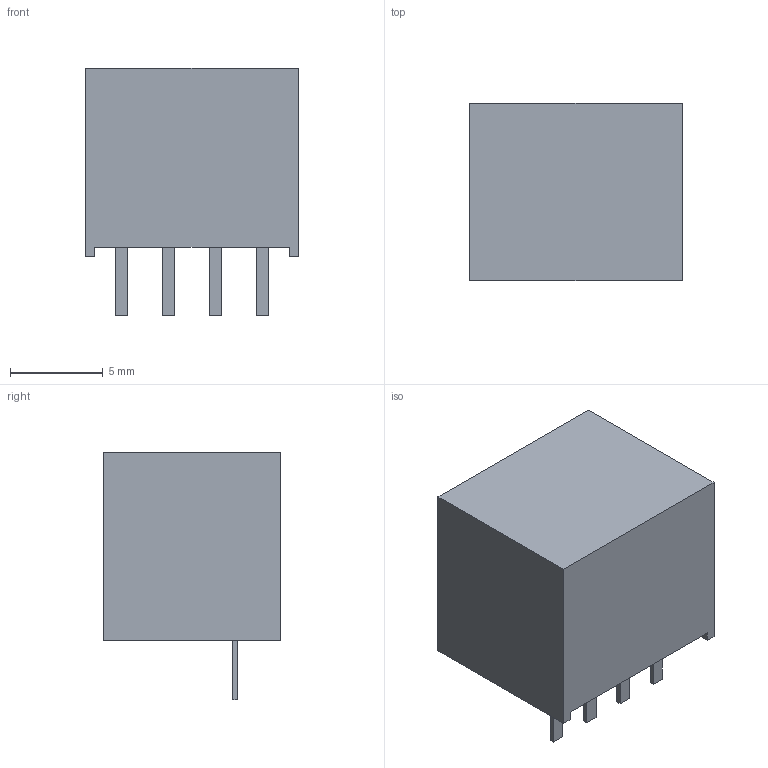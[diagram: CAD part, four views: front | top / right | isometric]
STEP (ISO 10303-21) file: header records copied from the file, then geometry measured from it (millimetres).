
FILE_DESCRIPTION(/* description */ (''),/* implementation_level */ '2;1');
FILE_NAME(/* name */ 'C:\Users\Calliope\Desktop\轉檔暫存用\MBSU03_24V.stp',/* time_stamp */ '2024-02-23T16:08:15+08:00',/* author */ ('Calliope'),/* organization */ (''),/* preprocessor_version */ 'ST-DEVELOPER v16.1',/* originating_system */ 'Autodesk Inventor 2016',/* authorisation */ '');
FILE_SCHEMA (('AUTOMOTIVE_DESIGN { 1 0 10303 214 3 1 1 }'));
Length unit declared in the file: millimetre
Products named in the file (1): MBSU03_24V
Bounding box: 11.5 x 9.6 x 13.4 mm (x, y, z)
Volume: 1078.3 mm3; surface area: 678.5 mm2
Topology: 1 solids, 1 shells, 30 faces, 72 edges, 48 vertices
Faces by surface type: plane 30
Entity records: 924 total; most frequent: CARTESIAN_POINT 151, ORIENTED_EDGE 144, DIRECTION 134, LINE 72, VECTOR 72, EDGE_CURVE 72, VERTEX_POINT 48, EDGE_LOOP 34
